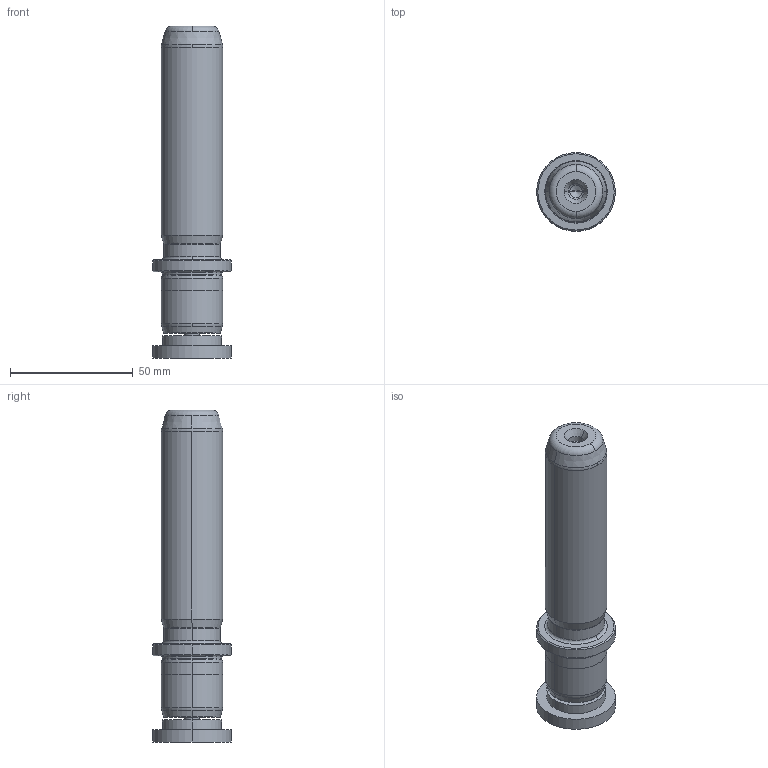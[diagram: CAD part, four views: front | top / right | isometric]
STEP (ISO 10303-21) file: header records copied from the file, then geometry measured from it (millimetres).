
FILE_DESCRIPTION((''),'2;1');
FILE_NAME('P22_025_100.stp','2009-02-02T15:35:18',(''),(''),'Mechanical Desktop 2009','Mechanical Desktop 2009',', , ');
FILE_SCHEMA(('CONFIG_CONTROL_DESIGN'));
Length unit declared in the file: millimetre
Products named in the file (2): Product; blmdl1
Assembly tree (1 placements, depth 2):
  Product
    blmdl1
Bounding box: 32 x 32 x 135 mm (x, y, z)
Volume: 66250.9 mm3; surface area: 15130 mm2
Topology: 3 solids, 3 shells, 99 faces, 237 edges, 149 vertices
Faces by surface type: cylinder 32, cone 28, plane 19, torus 10, bspline 10
Entity records: 3419 total; most frequent: CARTESIAN_POINT 923, DIRECTION 570, ORIENTED_EDGE 466, AXIS2_PLACEMENT_3D 246, EDGE_CURVE 233, CIRCLE 155, VERTEX_POINT 149, EDGE_LOOP 110
